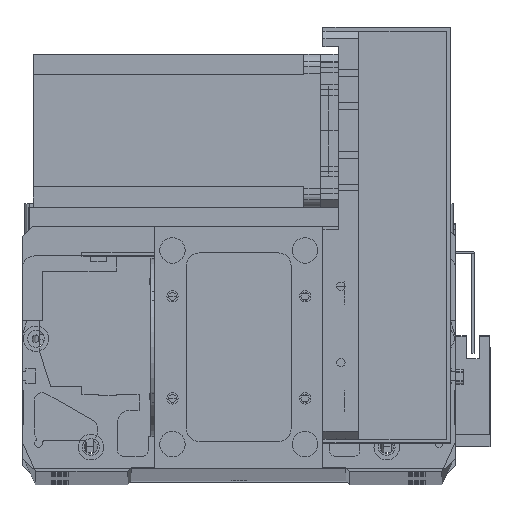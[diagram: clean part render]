
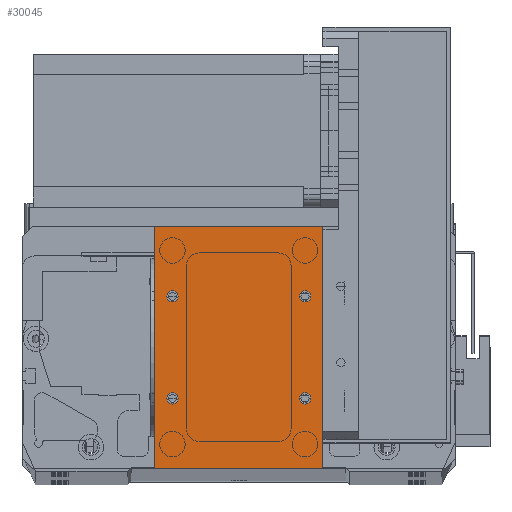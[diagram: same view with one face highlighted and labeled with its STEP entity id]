
A CAD part, top view. The second image highlights one B-rep face of the part: STEP entity #30045.
In plain terms, the highlighted planar face has unit normal (0, 0, 1).
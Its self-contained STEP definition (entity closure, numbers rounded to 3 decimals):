
#446 = DIRECTION ( 'NONE',  ( 0., 0., 1. ) ) ;
#495 = CARTESIAN_POINT ( 'NONE',  ( 4.75, 27.5, 2. ) ) ;
#573 = EDGE_CURVE ( 'NONE', #26987, #21953, #30237, .T. ) ;
#1009 = FACE_BOUND ( 'NONE', #20081, .T. ) ;
#1787 = AXIS2_PLACEMENT_3D ( 'NONE', #34610, #18479, #2483 ) ;
#2483 = DIRECTION ( 'NONE',  ( 1., 0., 0. ) ) ;
#2661 = VERTEX_POINT ( 'NONE', #24631 ) ;
#2738 = DIRECTION ( 'NONE',  ( 0., 0., 1. ) ) ;
#2861 = ORIENTED_EDGE ( 'NONE', *, *, #22942, .F. ) ;
#3264 = CARTESIAN_POINT ( 'NONE',  ( 0., 95., 2. ) ) ;
#3458 = EDGE_CURVE ( 'NONE', #19365, #8944, #31745, .T. ) ;
#3577 = EDGE_CURVE ( 'NONE', #3907, #10726, #6977, .T. ) ;
#3614 = VERTEX_POINT ( 'NONE', #15163 ) ;
#3907 = VERTEX_POINT ( 'NONE', #5712 ) ;
#3920 = EDGE_LOOP ( 'NONE', ( #32061, #2861 ) ) ;
#4033 = ORIENTED_EDGE ( 'NONE', *, *, #4803, .F. ) ;
#4457 = CARTESIAN_POINT ( 'NONE',  ( 59., 67.5, 2. ) ) ;
#4723 = EDGE_LOOP ( 'NONE', ( #13189, #25033 ) ) ;
#4803 = EDGE_CURVE ( 'NONE', #6732, #3614, #26379, .T. ) ;
#5218 = LINE ( 'NONE', #34661, #12308 ) ;
#5712 = CARTESIAN_POINT ( 'NONE',  ( 9.25, 67.5, 2. ) ) ;
#6732 = VERTEX_POINT ( 'NONE', #495 ) ;
#6977 = CIRCLE ( 'NONE', #29558, 2.25 ) ;
#7144 = DIRECTION ( 'NONE',  ( 1., 0., 0. ) ) ;
#7507 = ORIENTED_EDGE ( 'NONE', *, *, #573, .T. ) ;
#7804 = DIRECTION ( 'NONE',  ( 0., 1., 0. ) ) ;
#8140 = FACE_BOUND ( 'NONE', #3920, .T. ) ;
#8533 = CIRCLE ( 'NONE', #1787, 2.25 ) ;
#8944 = VERTEX_POINT ( 'NONE', #32464 ) ;
#9012 = ORIENTED_EDGE ( 'NONE', *, *, #14008, .T. ) ;
#9090 = VERTEX_POINT ( 'NONE', #25172 ) ;
#9330 = DIRECTION ( 'NONE',  ( 0., 0., -1. ) ) ;
#9782 = AXIS2_PLACEMENT_3D ( 'NONE', #30707, #14581, #33397 ) ;
#10287 = DIRECTION ( 'NONE',  ( 0., 0., 1. ) ) ;
#10726 = VERTEX_POINT ( 'NONE', #16614 ) ;
#11324 = DIRECTION ( 'NONE',  ( -1., 0., 0. ) ) ;
#11980 = CARTESIAN_POINT ( 'NONE',  ( 0., 95., 2. ) ) ;
#12061 = VECTOR ( 'NONE', #34461, 1000. ) ;
#12308 = VECTOR ( 'NONE', #7804, 1000. ) ;
#12385 = CARTESIAN_POINT ( 'NONE',  ( 7., 67.5, 2. ) ) ;
#12971 = CIRCLE ( 'NONE', #13361, 2.25 ) ;
#13189 = ORIENTED_EDGE ( 'NONE', *, *, #3577, .F. ) ;
#13361 = AXIS2_PLACEMENT_3D ( 'NONE', #18753, #2738, #21446 ) ;
#14008 = EDGE_CURVE ( 'NONE', #22311, #9090, #24537, .T. ) ;
#14226 = DIRECTION ( 'NONE',  ( 0., 0., 1. ) ) ;
#14581 = DIRECTION ( 'NONE',  ( 0., 0., 1. ) ) ;
#15040 = DIRECTION ( 'NONE',  ( 1., 0., 0. ) ) ;
#15163 = CARTESIAN_POINT ( 'NONE',  ( 9.25, 27.5, 2. ) ) ;
#15738 = EDGE_LOOP ( 'NONE', ( #24817, #30064 ) ) ;
#16004 = CARTESIAN_POINT ( 'NONE',  ( 0., 0., 2. ) ) ;
#16085 = FACE_BOUND ( 'NONE', #4723, .T. ) ;
#16456 = CARTESIAN_POINT ( 'NONE',  ( 59., 27.5, 2. ) ) ;
#16614 = CARTESIAN_POINT ( 'NONE',  ( 4.75, 67.5, 2. ) ) ;
#17242 = CARTESIAN_POINT ( 'NONE',  ( 61.25, 27.5, 2. ) ) ;
#17261 = AXIS2_PLACEMENT_3D ( 'NONE', #4457, #23160, #7144 ) ;
#17388 = VECTOR ( 'NONE', #32123, 1000. ) ;
#17528 = ORIENTED_EDGE ( 'NONE', *, *, #18630, .T. ) ;
#17532 = EDGE_CURVE ( 'NONE', #2661, #19299, #12971, .T. ) ;
#18110 = CIRCLE ( 'NONE', #17261, 2.25 ) ;
#18479 = DIRECTION ( 'NONE',  ( 0., 0., 1. ) ) ;
#18593 = CIRCLE ( 'NONE', #20608, 2.25 ) ;
#18630 = EDGE_CURVE ( 'NONE', #21953, #22311, #19165, .T. ) ;
#18753 = CARTESIAN_POINT ( 'NONE',  ( 59., 67.5, 2. ) ) ;
#19157 = DIRECTION ( 'NONE',  ( 1., 0., 0. ) ) ;
#19165 = LINE ( 'NONE', #23633, #12061 ) ;
#19299 = VERTEX_POINT ( 'NONE', #22275 ) ;
#19365 = VERTEX_POINT ( 'NONE', #17242 ) ;
#20081 = EDGE_LOOP ( 'NONE', ( #26020, #4033 ) ) ;
#20608 = AXIS2_PLACEMENT_3D ( 'NONE', #30333, #14226, #33046 ) ;
#21446 = DIRECTION ( 'NONE',  ( 1., 0., 0. ) ) ;
#21953 = VERTEX_POINT ( 'NONE', #11980 ) ;
#22275 = CARTESIAN_POINT ( 'NONE',  ( 61.25, 67.5, 2. ) ) ;
#22311 = VERTEX_POINT ( 'NONE', #26745 ) ;
#22369 = FACE_BOUND ( 'NONE', #15738, .T. ) ;
#22942 = EDGE_CURVE ( 'NONE', #8944, #19365, #34506, .T. ) ;
#23160 = DIRECTION ( 'NONE',  ( 0., 0., 1. ) ) ;
#23633 = CARTESIAN_POINT ( 'NONE',  ( 0., 0., 2. ) ) ;
#24537 = LINE ( 'NONE', #16004, #17388 ) ;
#24631 = CARTESIAN_POINT ( 'NONE',  ( 56.75, 67.5, 2. ) ) ;
#24817 = ORIENTED_EDGE ( 'NONE', *, *, #33983, .F. ) ;
#25033 = ORIENTED_EDGE ( 'NONE', *, *, #29970, .F. ) ;
#25172 = CARTESIAN_POINT ( 'NONE',  ( 66., 0., 2. ) ) ;
#25396 = CARTESIAN_POINT ( 'NONE',  ( 0., 0., 2. ) ) ;
#26020 = ORIENTED_EDGE ( 'NONE', *, *, #33616, .F. ) ;
#26354 = CARTESIAN_POINT ( 'NONE',  ( 7., 27.5, 2. ) ) ;
#26379 = CIRCLE ( 'NONE', #31366, 2.25 ) ;
#26745 = CARTESIAN_POINT ( 'NONE',  ( 0., 0., 2. ) ) ;
#26987 = VERTEX_POINT ( 'NONE', #30087 ) ;
#28100 = DIRECTION ( 'NONE',  ( -1., 0., 0. ) ) ;
#28699 = FACE_OUTER_BOUND ( 'NONE', #31248, .T. ) ;
#29035 = DIRECTION ( 'NONE',  ( 1., 0., 0. ) ) ;
#29558 = AXIS2_PLACEMENT_3D ( 'NONE', #12385, #31159, #15040 ) ;
#29970 = EDGE_CURVE ( 'NONE', #10726, #3907, #18593, .T. ) ;
#30045 = ADVANCED_FACE ( 'NONE', ( #16085, #22369, #8140, #1009, #28699 ), #33388, .F. ) ;
#30064 = ORIENTED_EDGE ( 'NONE', *, *, #17532, .F. ) ;
#30087 = CARTESIAN_POINT ( 'NONE',  ( 66., 95., 2. ) ) ;
#30237 = LINE ( 'NONE', #3264, #31097 ) ;
#30333 = CARTESIAN_POINT ( 'NONE',  ( 7., 67.5, 2. ) ) ;
#30365 = EDGE_CURVE ( 'NONE', #9090, #26987, #5218, .T. ) ;
#30707 = CARTESIAN_POINT ( 'NONE',  ( 59., 27.5, 2. ) ) ;
#31097 = VECTOR ( 'NONE', #11324, 1000. ) ;
#31159 = DIRECTION ( 'NONE',  ( 0., 0., 1. ) ) ;
#31248 = EDGE_LOOP ( 'NONE', ( #17528, #9012, #32835, #7507 ) ) ;
#31366 = AXIS2_PLACEMENT_3D ( 'NONE', #26354, #10287, #29035 ) ;
#31745 = CIRCLE ( 'NONE', #9782, 2.25 ) ;
#32061 = ORIENTED_EDGE ( 'NONE', *, *, #3458, .F. ) ;
#32123 = DIRECTION ( 'NONE',  ( 1., 0., 0. ) ) ;
#32464 = CARTESIAN_POINT ( 'NONE',  ( 56.75, 27.5, 2. ) ) ;
#32835 = ORIENTED_EDGE ( 'NONE', *, *, #30365, .T. ) ;
#33044 = AXIS2_PLACEMENT_3D ( 'NONE', #16456, #446, #19157 ) ;
#33046 = DIRECTION ( 'NONE',  ( 1., 0., 0. ) ) ;
#33253 = AXIS2_PLACEMENT_3D ( 'NONE', #25396, #9330, #28100 ) ;
#33388 = PLANE ( 'NONE',  #33253 ) ;
#33397 = DIRECTION ( 'NONE',  ( 1., 0., 0. ) ) ;
#33616 = EDGE_CURVE ( 'NONE', #3614, #6732, #8533, .T. ) ;
#33983 = EDGE_CURVE ( 'NONE', #19299, #2661, #18110, .T. ) ;
#34461 = DIRECTION ( 'NONE',  ( 0., -1., 0. ) ) ;
#34506 = CIRCLE ( 'NONE', #33044, 2.25 ) ;
#34610 = CARTESIAN_POINT ( 'NONE',  ( 7., 27.5, 2. ) ) ;
#34661 = CARTESIAN_POINT ( 'NONE',  ( 66., 0., 2. ) ) ;
